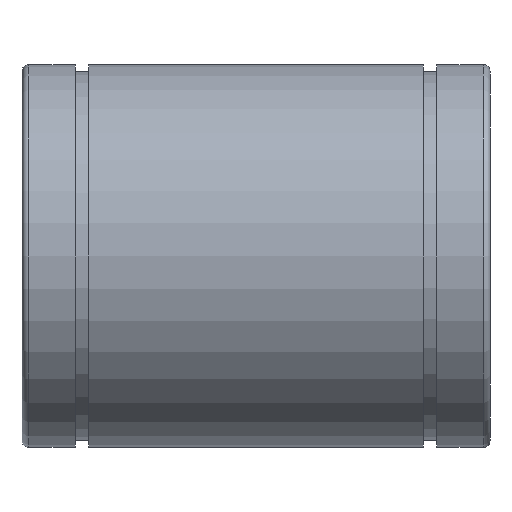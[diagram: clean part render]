
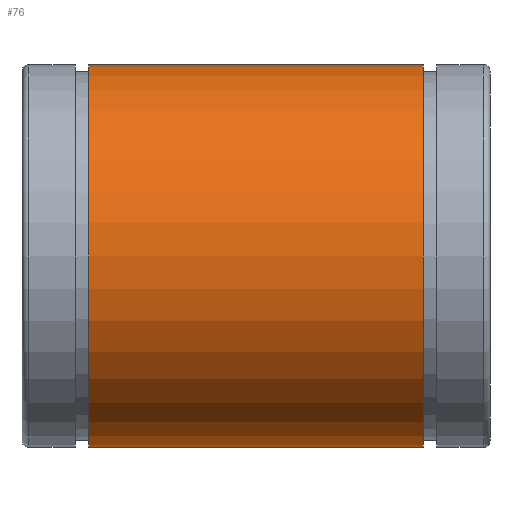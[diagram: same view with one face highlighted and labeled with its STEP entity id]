
A CAD part, front view. The second image highlights one B-rep face of the part: STEP entity #76.
In plain terms, the highlighted cylindrical face has radius 45 mm (diameter 90 mm), a full revolution.
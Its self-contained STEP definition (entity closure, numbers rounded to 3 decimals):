
#76=ADVANCED_FACE('',(#93,#94),#95,.T.);
#93=FACE_OUTER_BOUND('',#135,.T.);
#94=FACE_OUTER_BOUND('',#136,.T.);
#95=CYLINDRICAL_SURFACE('',#137,45.0);
#135=EDGE_LOOP('',(#179));
#136=EDGE_LOOP('',(#180));
#137=AXIS2_PLACEMENT_3D('',#181,#182,#183);
#179=ORIENTED_EDGE('',*,*,#246,.F.);
#180=ORIENTED_EDGE('',*,*,#247,.F.);
#181=CARTESIAN_POINT('',(0.0,0.0,0.0));
#182=DIRECTION('',(1.0,-0.0,-0.0));
#183=DIRECTION('',(0.0,1.0,0.0));
#246=EDGE_CURVE('',#262,#262,#263,.T.);
#247=EDGE_CURVE('',#264,#264,#265,.T.);
#262=VERTEX_POINT('',#290);
#263=CIRCLE('',#291,45.0);
#264=VERTEX_POINT('',#292);
#265=CIRCLE('',#293,45.0);
#290=CARTESIAN_POINT('',(-39.35,-45.0,0.0));
#291=AXIS2_PLACEMENT_3D('',#320,#321,#322);
#292=CARTESIAN_POINT('',(39.35,45.0,0.0));
#293=AXIS2_PLACEMENT_3D('',#323,#324,#325);
#320=CARTESIAN_POINT('',(-39.35,0.0,0.0));
#321=DIRECTION('',(-1.0,0.0,0.0));
#322=DIRECTION('',(0.0,-1.0,0.0));
#323=CARTESIAN_POINT('',(39.35,0.0,0.0));
#324=DIRECTION('',(1.0,0.0,0.0));
#325=DIRECTION('',(0.0,1.0,0.0));
